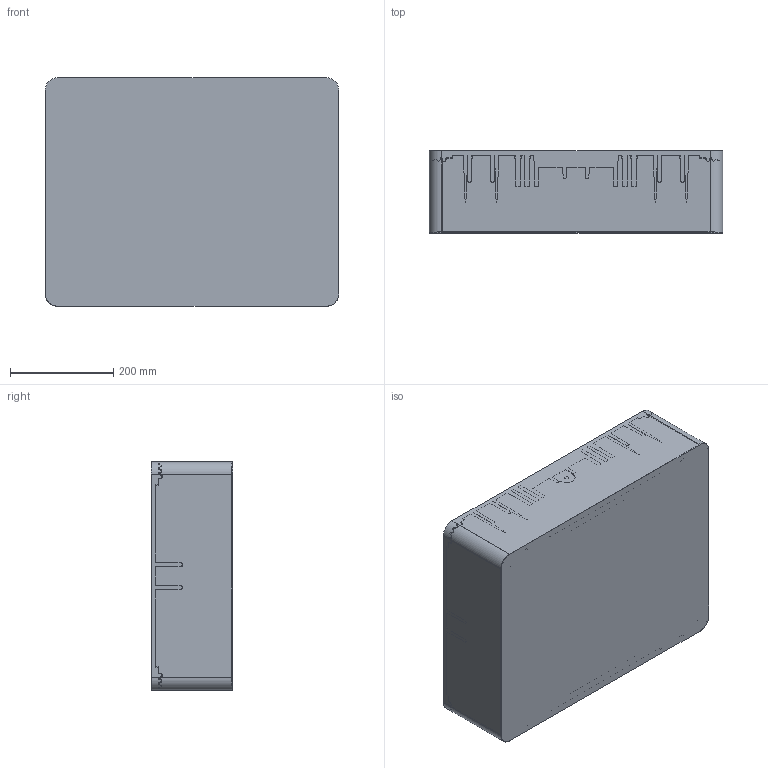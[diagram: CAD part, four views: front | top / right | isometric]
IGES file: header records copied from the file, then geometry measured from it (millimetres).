
Start section: SolidWorks IGES file using analytic representation for surfaces
Global section: file name: C:\temp\EU files dimensions 12-14-15\EU case files in pdf and DXF format\1600 Peli case Bottom.IGS; native system: SolidWorks 2014; preprocessor: SolidWorks 2014; author: mhakami; date: 160112.103637; units: inch
Bounding box: 569.11 x 158.75 x 443 mm (x, y, z)
Surface area: 1663820.4 mm2 (no closed solid volume)
Topology: 0 solids, 0 shells, 612 faces, 8757 edges, 8747 vertices
Faces by surface type: bspline 322, revolution 290
